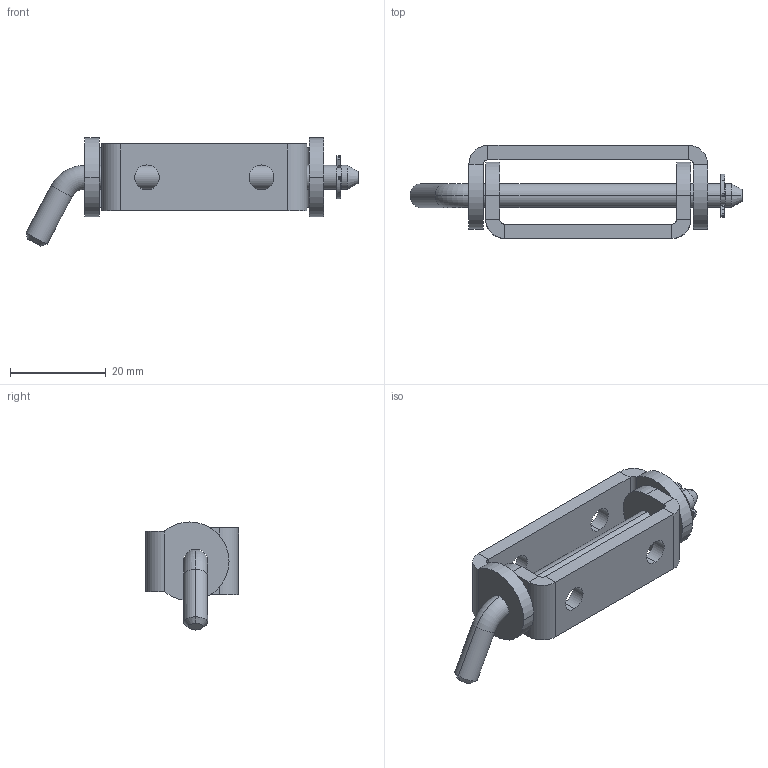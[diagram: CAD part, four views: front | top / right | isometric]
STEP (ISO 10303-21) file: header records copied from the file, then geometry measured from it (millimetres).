
FILE_DESCRIPTION (( 'STEP AP214' ), '1' );
FILE_NAME ('3.ST10.001.STEP', '2010-03-01T16:08:20', ( 'Piotr Zieliñski' ), ( 'Roztocze Z.U.P.' ), 'SwSTEP 2.0', 'SolidWorks 2004231', '' );
FILE_SCHEMA (( 'AUTOMOTIVE_DESIGN' ));
Length unit declared in the file: millimetre
Products named in the file (5): 3.ST10.001.03; 3.ST10.001.01; Zabezpieczenie_Domyœlna; 3.ST10.001.02; 3.ST10.001
Assembly tree (4 placements, depth 2):
  3.ST10.001
    3.ST10.001.01
    3.ST10.001.02
    Zabezpieczenie_Domyœlna
    3.ST10.001.03
Bounding box: 69.53 x 19.5 x 22.63 mm (x, y, z)
Volume: 6675.7 mm3; surface area: 6126.2 mm2
Topology: 4 solids, 4 shells, 113 faces, 269 edges, 166 vertices
Faces by surface type: plane 45, cylinder 40, bspline 22, cone 4, torus 2
Entity records: 3669 total; most frequent: CARTESIAN_POINT 1017, ORIENTED_EDGE 538, DIRECTION 507, EDGE_CURVE 269, AXIS2_PLACEMENT_3D 184, VERTEX_POINT 166, VECTOR 139, LINE 139
